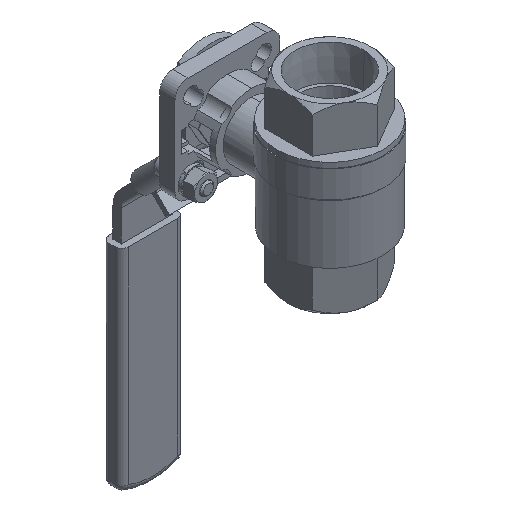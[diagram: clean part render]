
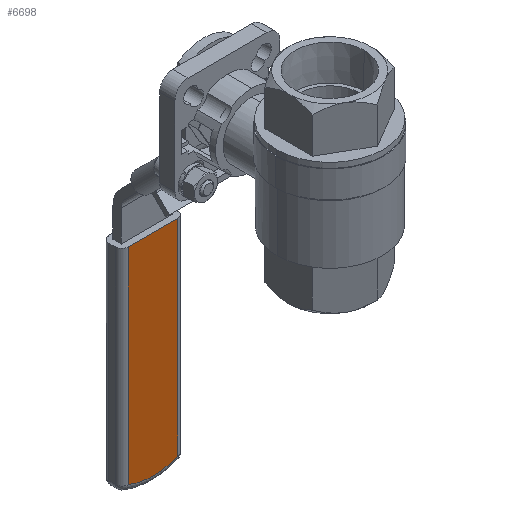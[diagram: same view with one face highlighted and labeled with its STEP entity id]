
A CAD part, isometric view. The second image highlights one B-rep face of the part: STEP entity #6698.
In plain terms, the highlighted planar face has unit normal (0, -1, 0).
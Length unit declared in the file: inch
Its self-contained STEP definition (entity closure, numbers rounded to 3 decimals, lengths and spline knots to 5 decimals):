
#85 = PLANE ( 'NONE',  #5051 ) ;
#98 = CARTESIAN_POINT ( 'NONE',  ( 0.69463, -0.1175, 0.5945 ) ) ;
#443 = AXIS2_PLACEMENT_3D ( 'NONE', #5200, #5303, #8182 ) ;
#523 = CARTESIAN_POINT ( 'NONE',  ( 0.69463, -0.1175, -0.4695 ) ) ;
#845 = LINE ( 'NONE', #98, #4214 ) ;
#1070 = CARTESIAN_POINT ( 'NONE',  ( 0.69463, -0.1175, 0.4695 ) ) ;
#1078 = DIRECTION ( 'NONE',  ( -1., 0., 0. ) ) ;
#1393 = CIRCLE ( 'NONE', #443, 1.2275 ) ;
#1828 = LINE ( 'NONE', #4799, #8314 ) ;
#2770 = DIRECTION ( 'NONE',  ( 1., 0., 0. ) ) ;
#2953 = VERTEX_POINT ( 'NONE', #9356 ) ;
#3899 = EDGE_CURVE ( 'NONE', #4842, #2953, #9353, .T. ) ;
#4214 = VECTOR ( 'NONE', #5353, 39.37008 ) ;
#4505 = DIRECTION ( 'NONE',  ( 0., 0., 1. ) ) ;
#4743 = VECTOR ( 'NONE', #2770, 39.37008 ) ;
#4799 = CARTESIAN_POINT ( 'NONE',  ( 0.69463, -0.1175, 0.4695 ) ) ;
#4842 = VERTEX_POINT ( 'NONE', #523 ) ;
#4923 = EDGE_LOOP ( 'NONE', ( #8477, #7416, #5242, #8731 ) ) ;
#5051 = AXIS2_PLACEMENT_3D ( 'NONE', #5876, #8866, #4505 ) ;
#5200 = CARTESIAN_POINT ( 'NONE',  ( 3.4798, -0.1175, 0. ) ) ;
#5242 = ORIENTED_EDGE ( 'NONE', *, *, #6412, .T. ) ;
#5303 = DIRECTION ( 'NONE',  ( 0., -1., 0. ) ) ;
#5353 = DIRECTION ( 'NONE',  ( 0., 0., 1. ) ) ;
#5752 = VERTEX_POINT ( 'NONE', #1070 ) ;
#5876 = CARTESIAN_POINT ( 'NONE',  ( 3.4798, -0.1175, 0. ) ) ;
#6412 = EDGE_CURVE ( 'NONE', #2953, #7326, #1393, .T. ) ;
#6441 = EDGE_CURVE ( 'NONE', #4842, #5752, #845, .T. ) ;
#6698 = ADVANCED_FACE ( 'NONE', ( #7490 ), #85, .F. ) ;
#6916 = EDGE_CURVE ( 'NONE', #7326, #5752, #1828, .T. ) ;
#7326 = VERTEX_POINT ( 'NONE', #8702 ) ;
#7416 = ORIENTED_EDGE ( 'NONE', *, *, #3899, .T. ) ;
#7490 = FACE_OUTER_BOUND ( 'NONE', #4923, .T. ) ;
#8182 = DIRECTION ( 'NONE',  ( 0., 0., 1. ) ) ;
#8314 = VECTOR ( 'NONE', #1078, 39.37008 ) ;
#8477 = ORIENTED_EDGE ( 'NONE', *, *, #6441, .F. ) ;
#8702 = CARTESIAN_POINT ( 'NONE',  ( 4.61396, -0.1175, 0.4695 ) ) ;
#8731 = ORIENTED_EDGE ( 'NONE', *, *, #6916, .T. ) ;
#8866 = DIRECTION ( 'NONE',  ( 0., 1., 0. ) ) ;
#9257 = CARTESIAN_POINT ( 'NONE',  ( 4.69463, -0.1175, -0.4695 ) ) ;
#9353 = LINE ( 'NONE', #9257, #4743 ) ;
#9356 = CARTESIAN_POINT ( 'NONE',  ( 4.61396, -0.1175, -0.4695 ) ) ;
